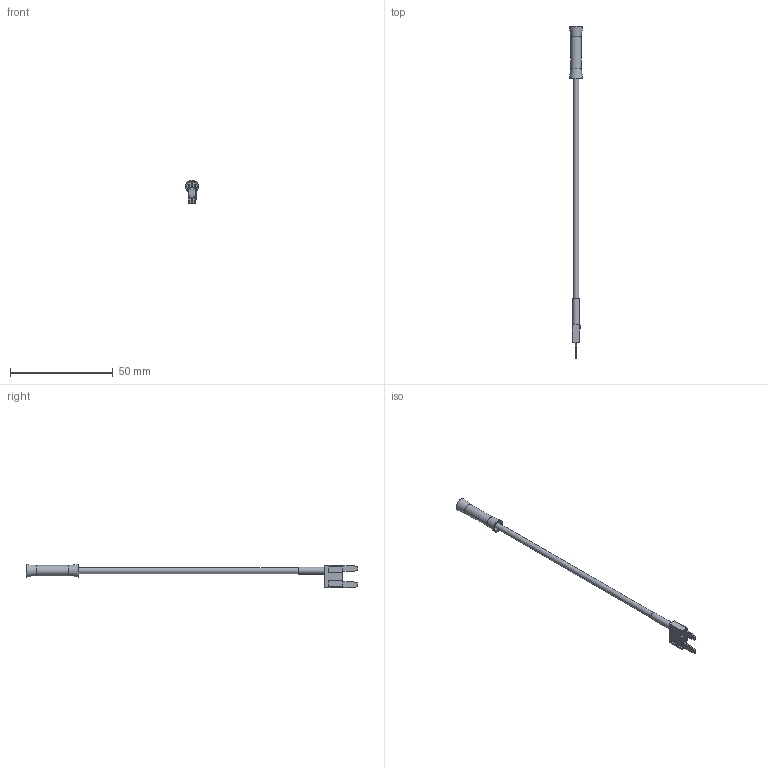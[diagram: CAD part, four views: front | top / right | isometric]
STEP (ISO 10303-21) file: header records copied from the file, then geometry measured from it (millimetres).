
FILE_DESCRIPTION(/* description */ (''),/* implementation_level */ '2;1');
FILE_NAME(/* name */ 'C:\Users\Hani\Desktop\work\ANM-W\ANM-W.stp',/* time_stamp */ '2021-08-29T08:32:49-07:00',/* author */ ('Hani'),/* organization */ (''),/* preprocessor_version */ 'ST-DEVELOPER v17',/* originating_system */ 'Autodesk Inventor 2019',/* authorisation */ '');
FILE_SCHEMA (('AUTOMOTIVE_DESIGN { 1 0 10303 214 3 1 1 }'));
Length unit declared in the file: inch
Products named in the file (3): ANM-W; ANM-I; -W
Assembly tree (2 placements, depth 2):
  ANM-W
    ANM-I
    -W
Bounding box: 6.35 x 161.29 x 11.54 mm (x, y, z)
Volume: 1413.8 mm3; surface area: 2374.4 mm2
Topology: 3 solids, 3 shells, 222 faces, 590 edges, 389 vertices
Faces by surface type: plane 122, bspline 67, cylinder 27, torus 2, sphere 2, cone 2
Full cylindrical faces by diameter (mm): 2.794 x1, 3.302 x1, 5.08 x3
Entity records: 7546 total; most frequent: CARTESIAN_POINT 2278, ORIENTED_EDGE 1180, DIRECTION 833, EDGE_CURVE 590, LINE 399, VECTOR 399, VERTEX_POINT 389, EDGE_LOOP 239
